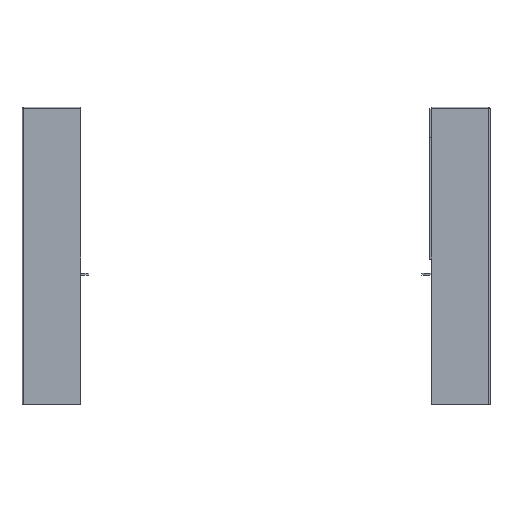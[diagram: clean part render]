
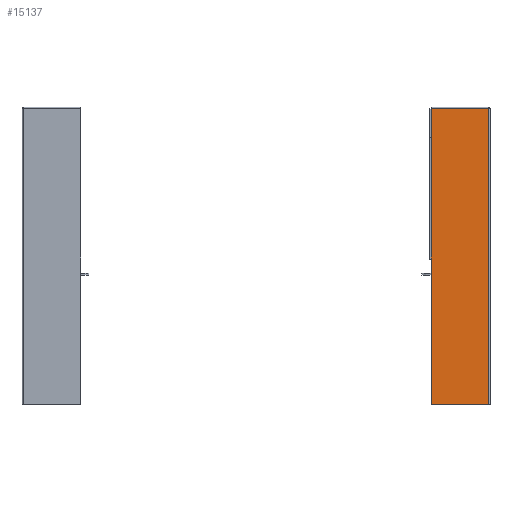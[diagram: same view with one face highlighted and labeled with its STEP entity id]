
A CAD part, top view. The second image highlights one B-rep face of the part: STEP entity #15137.
In plain terms, the highlighted planar face has unit normal (0, 0, 1).
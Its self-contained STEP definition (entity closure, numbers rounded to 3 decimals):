
#965=FACE_OUTER_BOUND('',#1835,.T.);
#1835=EDGE_LOOP('',(#10043,#10044,#10045,#10046,#10047));
#2857=CIRCLE('',#16190,1.);
#3469=LINE('',#21649,#4819);
#3470=LINE('',#21651,#4820);
#3471=LINE('',#21653,#4821);
#3472=LINE('',#21656,#4822);
#4819=VECTOR('',#17562,1000.);
#4820=VECTOR('',#17563,1000.);
#4821=VECTOR('',#17564,1000.);
#4822=VECTOR('',#17567,1000.);
#6169=VERTEX_POINT('',#21647);
#6170=VERTEX_POINT('',#21648);
#6171=VERTEX_POINT('',#21650);
#6172=VERTEX_POINT('',#21652);
#6173=VERTEX_POINT('',#21654);
#7731=EDGE_CURVE('',#6169,#6170,#3469,.T.);
#7732=EDGE_CURVE('',#6170,#6171,#3470,.T.);
#7733=EDGE_CURVE('',#6171,#6172,#3471,.T.);
#7734=EDGE_CURVE('',#6172,#6173,#2857,.T.);
#7735=EDGE_CURVE('',#6173,#6169,#3472,.T.);
#10043=ORIENTED_EDGE('',*,*,#7731,.T.);
#10044=ORIENTED_EDGE('',*,*,#7732,.T.);
#10045=ORIENTED_EDGE('',*,*,#7733,.T.);
#10046=ORIENTED_EDGE('',*,*,#7734,.T.);
#10047=ORIENTED_EDGE('',*,*,#7735,.T.);
#14667=PLANE('',#16189);
#15137=ADVANCED_FACE('',(#965),#14667,.T.);
#16189=AXIS2_PLACEMENT_3D('',#21646,#17560,#17561);
#16190=AXIS2_PLACEMENT_3D('',#21655,#17565,#17566);
#17560=DIRECTION('center_axis',(0.,0.,1.));
#17561=DIRECTION('ref_axis',(1.,0.,0.));
#17562=DIRECTION('',(0.,1.,0.));
#17563=DIRECTION('',(-1.,0.,0.));
#17564=DIRECTION('',(0.,-1.,0.));
#17565=DIRECTION('center_axis',(0.,0.,1.));
#17566=DIRECTION('ref_axis',(-1.,0.,0.));
#17567=DIRECTION('',(1.,0.,0.));
#21646=CARTESIAN_POINT('Origin',(0.,0.,0.5));
#21647=CARTESIAN_POINT('',(21.4,-113.,0.5));
#21648=CARTESIAN_POINT('',(21.4,112.,0.5));
#21649=CARTESIAN_POINT('',(21.4,0.,0.5));
#21650=CARTESIAN_POINT('',(-22.4,112.,0.5));
#21651=CARTESIAN_POINT('',(0.,112.,0.5));
#21652=CARTESIAN_POINT('',(-22.4,-112.,0.5));
#21653=CARTESIAN_POINT('',(-22.4,0.,0.5));
#21654=CARTESIAN_POINT('',(-21.4,-113.,0.5));
#21655=CARTESIAN_POINT('Origin',(-21.4,-112.,0.5));
#21656=CARTESIAN_POINT('',(0.,-113.,0.5));
